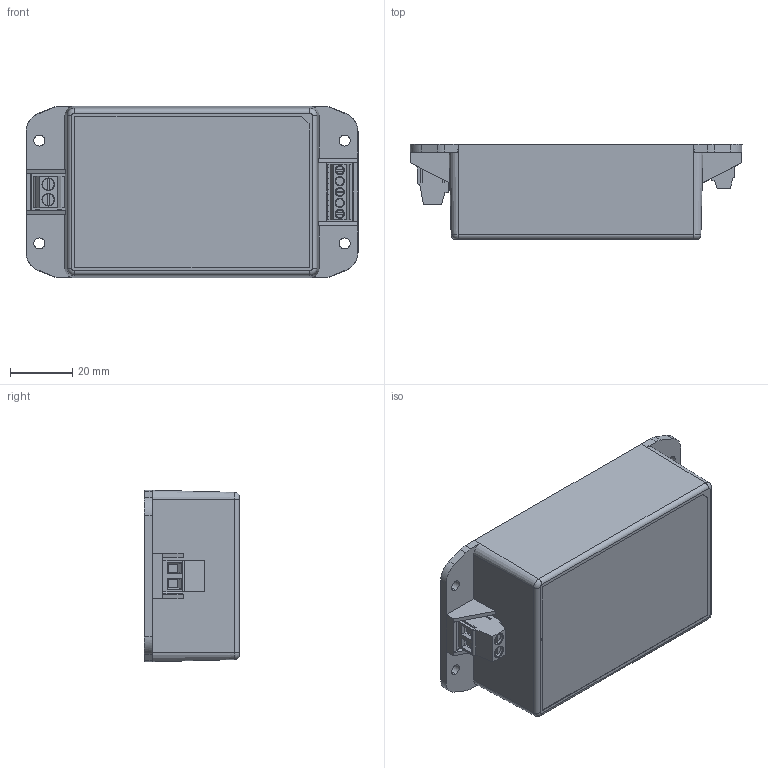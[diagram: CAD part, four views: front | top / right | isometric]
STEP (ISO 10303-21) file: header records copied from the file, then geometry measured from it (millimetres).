
FILE_DESCRIPTION (( 'STEP AP203' ), '1' );
FILE_NAME ('CFM50M(S)XXX-S ¦¨«~¹Ï M-B131-F (V1.1)-20250310.STEP', '2025-03-10T00:52:51', ( 'cincon' ), ( '' ), 'SwSTEP 2.0', 'SolidWorks 2020', '' );
FILE_SCHEMA (( 'CONFIG_CONTROL_DESIGN' ));
Length unit declared in the file: millimetre
Products named in the file (1): CFM50M(S)XXX-S 成品圖 M-B131-F (V1.1)-20250310
Bounding box: 106.58 x 30.5 x 55.2 mm (x, y, z)
Volume: 38613.1 mm3; surface area: 51892.8 mm2
Topology: 6 solids, 10 shells, 884 faces, 2323 edges, 1495 vertices
Faces by surface type: plane 657, cylinder 117, cone 50, bspline 32, torus 28
Entity records: 29665 total; most frequent: CARTESIAN_POINT 7769, ORIENTED_EDGE 4646, DIRECTION 4266, EDGE_CURVE 2323, VECTOR 1862, LINE 1862, VERTEX_POINT 1495, AXIS2_PLACEMENT_3D 1202
